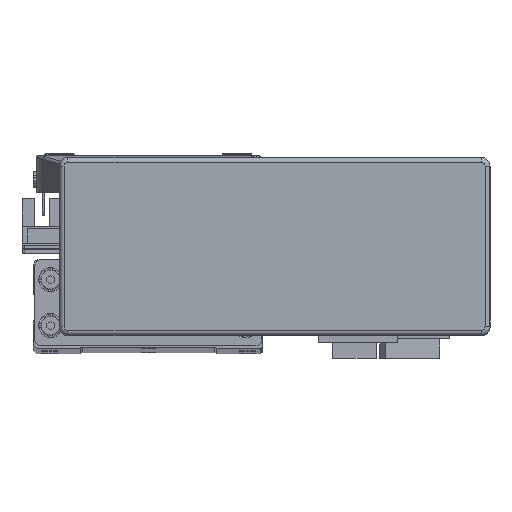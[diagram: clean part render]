
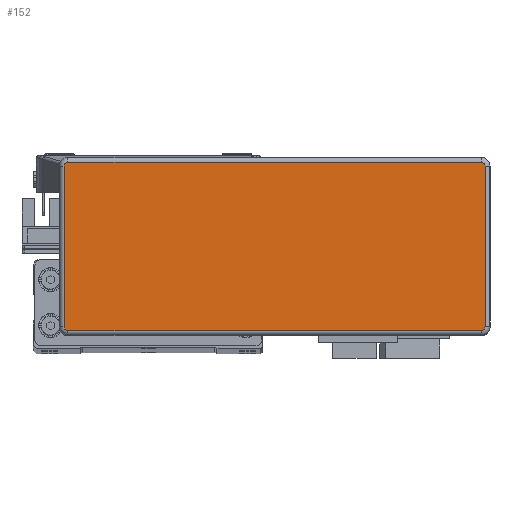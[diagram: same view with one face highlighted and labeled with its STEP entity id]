
A CAD part, top view. The second image highlights one B-rep face of the part: STEP entity #152.
In plain terms, the highlighted planar face has unit normal (0, 0, 1) as drawn and (0, 0, -1) by its records, which use the part's own axes.
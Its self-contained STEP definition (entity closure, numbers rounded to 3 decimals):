
#152 = ADVANCED_FACE ( 'NONE', ( #16303 ), #15733, .F. ) ;
#2862 = VERTEX_POINT ( 'NONE', #32630 ) ;
#2870 = VERTEX_POINT ( 'NONE', #32620 ) ;
#2897 = VERTEX_POINT ( 'NONE', #32577 ) ;
#2898 = VERTEX_POINT ( 'NONE', #32592 ) ;
#2899 = VERTEX_POINT ( 'NONE', #32576 ) ;
#2905 = VERTEX_POINT ( 'NONE', #32606 ) ;
#2912 = VERTEX_POINT ( 'NONE', #32593 ) ;
#2913 = VERTEX_POINT ( 'NONE', #32608 ) ;
#3049 = ORIENTED_EDGE ( 'NONE', *, *, #3771, .T. ) ;
#3078 = ORIENTED_EDGE ( 'NONE', *, *, #3814, .T. ) ;
#3080 = ORIENTED_EDGE ( 'NONE', *, *, #3817, .T. ) ;
#3088 = ORIENTED_EDGE ( 'NONE', *, *, #3782, .T. ) ;
#3089 = ORIENTED_EDGE ( 'NONE', *, *, #3708, .T. ) ;
#3097 = ORIENTED_EDGE ( 'NONE', *, *, #3798, .T. ) ;
#3114 = ORIENTED_EDGE ( 'NONE', *, *, #3749, .T. ) ;
#3145 = ORIENTED_EDGE ( 'NONE', *, *, #3804, .T. ) ;
#3708 = EDGE_CURVE ( 'NONE', #2898, #2897, #30346, .T. ) ;
#3749 = EDGE_CURVE ( 'NONE', #2905, #2870, #30376, .T. ) ;
#3771 = EDGE_CURVE ( 'NONE', #2912, #2899, #30440, .T. ) ;
#3782 = EDGE_CURVE ( 'NONE', #2913, #2898, #30450, .T. ) ;
#3798 = EDGE_CURVE ( 'NONE', #2899, #2862, #29996, .T. ) ;
#3804 = EDGE_CURVE ( 'NONE', #2897, #2905, #34416, .T. ) ;
#3814 = EDGE_CURVE ( 'NONE', #2862, #2913, #34389, .T. ) ;
#3817 = EDGE_CURVE ( 'NONE', #2870, #2912, #34400, .T. ) ;
#11072 = EDGE_LOOP ( 'NONE', ( #3145, #3114, #3080, #3049, #3097, #3078, #3088, #3089 ) ) ;
#13590 = AXIS2_PLACEMENT_3D ( 'NONE', #15755, #15758, #15723 ) ;
#15723 = DIRECTION ( 'NONE',  ( 1., 0., 0. ) ) ;
#15733 = PLANE ( 'NONE',  #13590 ) ;
#15755 = CARTESIAN_POINT ( 'NONE',  ( 71.995, -27.995, -32.2 ) ) ;
#15758 = DIRECTION ( 'NONE',  ( 0., 0., 1. ) ) ;
#16303 = FACE_OUTER_BOUND ( 'NONE', #11072, .T. ) ;
#24792 = AXIS2_PLACEMENT_3D ( 'NONE', #34058, #34082, #34056 ) ;
#24799 = AXIS2_PLACEMENT_3D ( 'NONE', #33922, #33874, #33920 ) ;
#24809 = AXIS2_PLACEMENT_3D ( 'NONE', #33962, #33946, #33930 ) ;
#24829 = AXIS2_PLACEMENT_3D ( 'NONE', #33656, #33637, #33653 ) ;
#29996 = LINE ( 'NONE', #34039, #30117 ) ;
#30117 = VECTOR ( 'NONE', #34032, 1000. ) ;
#30346 = CIRCLE ( 'NONE', #24829, 1.3 ) ;
#30376 = CIRCLE ( 'NONE', #24799, 1.3 ) ;
#30440 = CIRCLE ( 'NONE', #24809, 1.3 ) ;
#30450 = LINE ( 'NONE', #33994, #30464 ) ;
#30464 = VECTOR ( 'NONE', #33983, 1000. ) ;
#32576 = CARTESIAN_POINT ( 'NONE',  ( -73.295, -27.995, -32.2 ) ) ;
#32577 = CARTESIAN_POINT ( 'NONE',  ( 73.295, 27.995, -32.2 ) ) ;
#32592 = CARTESIAN_POINT ( 'NONE',  ( 71.995, 29.295, -32.2 ) ) ;
#32593 = CARTESIAN_POINT ( 'NONE',  ( -71.995, -29.295, -32.2 ) ) ;
#32606 = CARTESIAN_POINT ( 'NONE',  ( 73.295, -27.995, -32.2 ) ) ;
#32608 = CARTESIAN_POINT ( 'NONE',  ( -71.995, 29.295, -32.2 ) ) ;
#32620 = CARTESIAN_POINT ( 'NONE',  ( 71.995, -29.295, -32.2 ) ) ;
#32630 = CARTESIAN_POINT ( 'NONE',  ( -73.295, 27.995, -32.2 ) ) ;
#33637 = DIRECTION ( 'NONE',  ( 0., 0., -1. ) ) ;
#33653 = DIRECTION ( 'NONE',  ( 1., 0., 0. ) ) ;
#33656 = CARTESIAN_POINT ( 'NONE',  ( 71.995, 27.995, -32.2 ) ) ;
#33874 = DIRECTION ( 'NONE',  ( 0., 0., -1. ) ) ;
#33920 = DIRECTION ( 'NONE',  ( 1., 0., 0. ) ) ;
#33922 = CARTESIAN_POINT ( 'NONE',  ( 71.995, -27.995, -32.2 ) ) ;
#33930 = DIRECTION ( 'NONE',  ( 1., 0., 0. ) ) ;
#33946 = DIRECTION ( 'NONE',  ( 0., 0., -1. ) ) ;
#33962 = CARTESIAN_POINT ( 'NONE',  ( -71.995, -27.995, -32.2 ) ) ;
#33983 = DIRECTION ( 'NONE',  ( 1., 0., 0. ) ) ;
#33994 = CARTESIAN_POINT ( 'NONE',  ( 71.995, 29.295, -32.2 ) ) ;
#34032 = DIRECTION ( 'NONE',  ( 0., 1., 0. ) ) ;
#34039 = CARTESIAN_POINT ( 'NONE',  ( -73.295, -27.995, -32.2 ) ) ;
#34045 = CARTESIAN_POINT ( 'NONE',  ( 73.295, -27.995, -32.2 ) ) ;
#34048 = DIRECTION ( 'NONE',  ( 0., -1., 0. ) ) ;
#34056 = DIRECTION ( 'NONE',  ( 1., 0., 0. ) ) ;
#34058 = CARTESIAN_POINT ( 'NONE',  ( -71.995, 27.995, -32.2 ) ) ;
#34059 = DIRECTION ( 'NONE',  ( -1., 0., 0. ) ) ;
#34078 = CARTESIAN_POINT ( 'NONE',  ( 71.995, -29.295, -32.2 ) ) ;
#34082 = DIRECTION ( 'NONE',  ( 0., 0., -1. ) ) ;
#34388 = VECTOR ( 'NONE', #34048, 1000. ) ;
#34389 = CIRCLE ( 'NONE', #24792, 1.3 ) ;
#34400 = LINE ( 'NONE', #34078, #34431 ) ;
#34416 = LINE ( 'NONE', #34045, #34388 ) ;
#34431 = VECTOR ( 'NONE', #34059, 1000. ) ;
